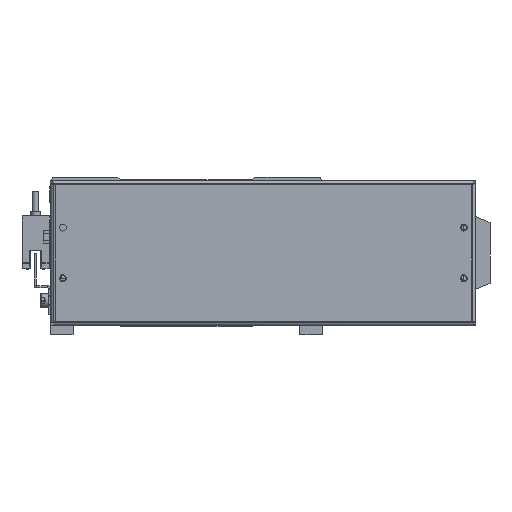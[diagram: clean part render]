
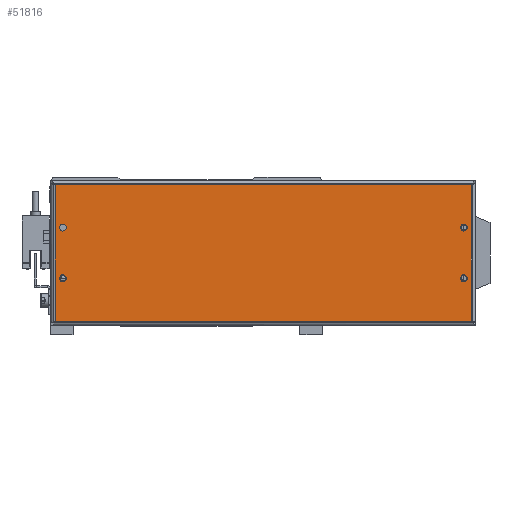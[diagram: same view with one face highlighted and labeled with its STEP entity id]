
A CAD part, front view. The second image highlights one B-rep face of the part: STEP entity #51816.
In plain terms, the highlighted planar face has unit normal (0, -1, 0) as drawn and (0, 1, 0) by its records, which use the part's own axes.
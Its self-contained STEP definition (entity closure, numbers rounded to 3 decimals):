
#937 = CARTESIAN_POINT ( 'NONE',  ( -99., 0., 12.5 ) ) ;
#1020 = CIRCLE ( 'NONE', #41065, 1.7 ) ;
#1373 = CARTESIAN_POINT ( 'NONE',  ( 99., 0., 10.8 ) ) ;
#1380 = CIRCLE ( 'NONE', #28614, 1.7 ) ;
#1661 = ORIENTED_EDGE ( 'NONE', *, *, #44704, .F. ) ;
#1664 = AXIS2_PLACEMENT_3D ( 'NONE', #45083, #5929, #10853 ) ;
#2011 = DIRECTION ( 'NONE',  ( 1., 0., 0. ) ) ;
#2249 = CARTESIAN_POINT ( 'NONE',  ( 102.793, 0., -33.763 ) ) ;
#2277 = VERTEX_POINT ( 'NONE', #41300 ) ;
#2385 = PLANE ( 'NONE',  #52535 ) ;
#2960 = ORIENTED_EDGE ( 'NONE', *, *, #38801, .T. ) ;
#2994 = FACE_BOUND ( 'NONE', #52614, .T. ) ;
#3069 = VERTEX_POINT ( 'NONE', #61032 ) ;
#3629 = VERTEX_POINT ( 'NONE', #1373 ) ;
#3939 = DIRECTION ( 'NONE',  ( 0., 0., 1. ) ) ;
#4463 = CIRCLE ( 'NONE', #9003, 1.7 ) ;
#5325 = EDGE_CURVE ( 'NONE', #22834, #2277, #50187, .T. ) ;
#5929 = DIRECTION ( 'NONE',  ( 0., 1., 0. ) ) ;
#8230 = EDGE_LOOP ( 'NONE', ( #13359, #20551 ) ) ;
#8340 = FACE_BOUND ( 'NONE', #42373, .T. ) ;
#8416 = VECTOR ( 'NONE', #22053, 1000. ) ;
#8748 = DIRECTION ( 'NONE',  ( 0., 0., 1. ) ) ;
#9003 = AXIS2_PLACEMENT_3D ( 'NONE', #27762, #52275, #3939 ) ;
#9965 = LINE ( 'NONE', #2249, #8416 ) ;
#10853 = DIRECTION ( 'NONE',  ( 0., 0., 1. ) ) ;
#10864 = CARTESIAN_POINT ( 'NONE',  ( -102.763, 0., -33.763 ) ) ;
#11285 = ORIENTED_EDGE ( 'NONE', *, *, #57736, .F. ) ;
#12225 = DIRECTION ( 'NONE',  ( 0., 0., 1. ) ) ;
#13359 = ORIENTED_EDGE ( 'NONE', *, *, #18177, .F. ) ;
#13642 = DIRECTION ( 'NONE',  ( 0., 1., 0. ) ) ;
#14272 = AXIS2_PLACEMENT_3D ( 'NONE', #41290, #40452, #45342 ) ;
#15465 = DIRECTION ( 'NONE',  ( 0., 0., 1. ) ) ;
#15981 = FACE_BOUND ( 'NONE', #52813, .T. ) ;
#16333 = CARTESIAN_POINT ( 'NONE',  ( 99., 0., 12.5 ) ) ;
#16803 = EDGE_CURVE ( 'NONE', #59838, #53546, #9965, .T. ) ;
#16847 = CARTESIAN_POINT ( 'NONE',  ( 99., 0., -12.5 ) ) ;
#17984 = LINE ( 'NONE', #20715, #41556 ) ;
#18177 = EDGE_CURVE ( 'NONE', #37547, #42181, #1380, .T. ) ;
#20551 = ORIENTED_EDGE ( 'NONE', *, *, #40557, .F. ) ;
#20602 = EDGE_CURVE ( 'NONE', #62662, #59838, #17984, .T. ) ;
#20715 = CARTESIAN_POINT ( 'NONE',  ( 102.763, 0., 33.793 ) ) ;
#22053 = DIRECTION ( 'NONE',  ( -1., 0., 0. ) ) ;
#22491 = AXIS2_PLACEMENT_3D ( 'NONE', #16847, #50900, #26378 ) ;
#22834 = VERTEX_POINT ( 'NONE', #34585 ) ;
#22928 = ORIENTED_EDGE ( 'NONE', *, *, #45888, .F. ) ;
#22960 = EDGE_LOOP ( 'NONE', ( #54303, #2960, #58513, #34156 ) ) ;
#22989 = VECTOR ( 'NONE', #2011, 1000. ) ;
#23766 = EDGE_CURVE ( 'NONE', #2277, #22834, #52594, .T. ) ;
#24765 = CARTESIAN_POINT ( 'NONE',  ( -99., 0., -14.2 ) ) ;
#24848 = DIRECTION ( 'NONE',  ( 0., 0., 1. ) ) ;
#24868 = VECTOR ( 'NONE', #24848, 1000. ) ;
#25125 = FACE_OUTER_BOUND ( 'NONE', #22960, .T. ) ;
#26378 = DIRECTION ( 'NONE',  ( 0., 0., 1. ) ) ;
#26776 = LINE ( 'NONE', #50598, #22989 ) ;
#27762 = CARTESIAN_POINT ( 'NONE',  ( -99., 0., -12.5 ) ) ;
#28614 = AXIS2_PLACEMENT_3D ( 'NONE', #38495, #57241, #52779 ) ;
#31154 = CARTESIAN_POINT ( 'NONE',  ( 0., 0., 0. ) ) ;
#34156 = ORIENTED_EDGE ( 'NONE', *, *, #20602, .T. ) ;
#34227 = CARTESIAN_POINT ( 'NONE',  ( -99., 0., 14.2 ) ) ;
#34524 = EDGE_CURVE ( 'NONE', #3069, #62662, #26776, .T. ) ;
#34585 = CARTESIAN_POINT ( 'NONE',  ( 99., 0., -14.2 ) ) ;
#34611 = DIRECTION ( 'NONE',  ( 0., 1., 0. ) ) ;
#34867 = CARTESIAN_POINT ( 'NONE',  ( -102.763, 0., -33.793 ) ) ;
#36517 = VERTEX_POINT ( 'NONE', #24765 ) ;
#37547 = VERTEX_POINT ( 'NONE', #34227 ) ;
#37879 = CARTESIAN_POINT ( 'NONE',  ( 99., 0., 12.5 ) ) ;
#38495 = CARTESIAN_POINT ( 'NONE',  ( -99., 0., 12.5 ) ) ;
#38555 = LINE ( 'NONE', #34867, #24868 ) ;
#38801 = EDGE_CURVE ( 'NONE', #53546, #3069, #38555, .T. ) ;
#40307 = DIRECTION ( 'NONE',  ( 0., 0., -1. ) ) ;
#40452 = DIRECTION ( 'NONE',  ( 0., 1., 0. ) ) ;
#40557 = EDGE_CURVE ( 'NONE', #42181, #37547, #1020, .T. ) ;
#41065 = AXIS2_PLACEMENT_3D ( 'NONE', #937, #34611, #15465 ) ;
#41290 = CARTESIAN_POINT ( 'NONE',  ( 99., 0., -12.5 ) ) ;
#41300 = CARTESIAN_POINT ( 'NONE',  ( 99., 0., -10.8 ) ) ;
#41556 = VECTOR ( 'NONE', #40307, 1000. ) ;
#41659 = CARTESIAN_POINT ( 'NONE',  ( 102.763, 0., 33.763 ) ) ;
#42181 = VERTEX_POINT ( 'NONE', #59106 ) ;
#42373 = EDGE_LOOP ( 'NONE', ( #49757, #59505 ) ) ;
#44704 = EDGE_CURVE ( 'NONE', #55462, #36517, #4463, .T. ) ;
#44869 = CARTESIAN_POINT ( 'NONE',  ( -99., 0., -10.8 ) ) ;
#45083 = CARTESIAN_POINT ( 'NONE',  ( -99., 0., -12.5 ) ) ;
#45342 = DIRECTION ( 'NONE',  ( 0., 0., 1. ) ) ;
#45426 = DIRECTION ( 'NONE',  ( 0., 1., 0. ) ) ;
#45481 = DIRECTION ( 'NONE',  ( 0., 1., 0. ) ) ;
#45635 = CARTESIAN_POINT ( 'NONE',  ( 102.763, 0., -33.763 ) ) ;
#45888 = EDGE_CURVE ( 'NONE', #36517, #55462, #62239, .T. ) ;
#47214 = FACE_BOUND ( 'NONE', #8230, .T. ) ;
#48771 = AXIS2_PLACEMENT_3D ( 'NONE', #16333, #45481, #51015 ) ;
#49757 = ORIENTED_EDGE ( 'NONE', *, *, #23766, .F. ) ;
#50187 = CIRCLE ( 'NONE', #14272, 1.7 ) ;
#50598 = CARTESIAN_POINT ( 'NONE',  ( -102.793, 0., 33.763 ) ) ;
#50685 = ORIENTED_EDGE ( 'NONE', *, *, #56521, .F. ) ;
#50900 = DIRECTION ( 'NONE',  ( 0., 1., 0. ) ) ;
#50933 = CIRCLE ( 'NONE', #58176, 1.7 ) ;
#51015 = DIRECTION ( 'NONE',  ( 0., 0., 1. ) ) ;
#51816 = ADVANCED_FACE ( 'NONE', ( #15981, #47214, #8340, #2994, #25125 ), #2385, .T. ) ;
#52275 = DIRECTION ( 'NONE',  ( 0., 1., 0. ) ) ;
#52535 = AXIS2_PLACEMENT_3D ( 'NONE', #31154, #45426, #12225 ) ;
#52594 = CIRCLE ( 'NONE', #22491, 1.7 ) ;
#52614 = EDGE_LOOP ( 'NONE', ( #50685, #11285 ) ) ;
#52779 = DIRECTION ( 'NONE',  ( 0., 0., 1. ) ) ;
#52813 = EDGE_LOOP ( 'NONE', ( #1661, #22928 ) ) ;
#53021 = VERTEX_POINT ( 'NONE', #54578 ) ;
#53351 = CIRCLE ( 'NONE', #48771, 1.7 ) ;
#53546 = VERTEX_POINT ( 'NONE', #10864 ) ;
#54303 = ORIENTED_EDGE ( 'NONE', *, *, #16803, .T. ) ;
#54578 = CARTESIAN_POINT ( 'NONE',  ( 99., 0., 14.2 ) ) ;
#55462 = VERTEX_POINT ( 'NONE', #44869 ) ;
#56521 = EDGE_CURVE ( 'NONE', #53021, #3629, #53351, .T. ) ;
#57241 = DIRECTION ( 'NONE',  ( 0., 1., 0. ) ) ;
#57736 = EDGE_CURVE ( 'NONE', #3629, #53021, #50933, .T. ) ;
#58176 = AXIS2_PLACEMENT_3D ( 'NONE', #37879, #13642, #8748 ) ;
#58513 = ORIENTED_EDGE ( 'NONE', *, *, #34524, .T. ) ;
#59106 = CARTESIAN_POINT ( 'NONE',  ( -99., 0., 10.8 ) ) ;
#59505 = ORIENTED_EDGE ( 'NONE', *, *, #5325, .F. ) ;
#59838 = VERTEX_POINT ( 'NONE', #45635 ) ;
#61032 = CARTESIAN_POINT ( 'NONE',  ( -102.763, 0., 33.763 ) ) ;
#62239 = CIRCLE ( 'NONE', #1664, 1.7 ) ;
#62662 = VERTEX_POINT ( 'NONE', #41659 ) ;
